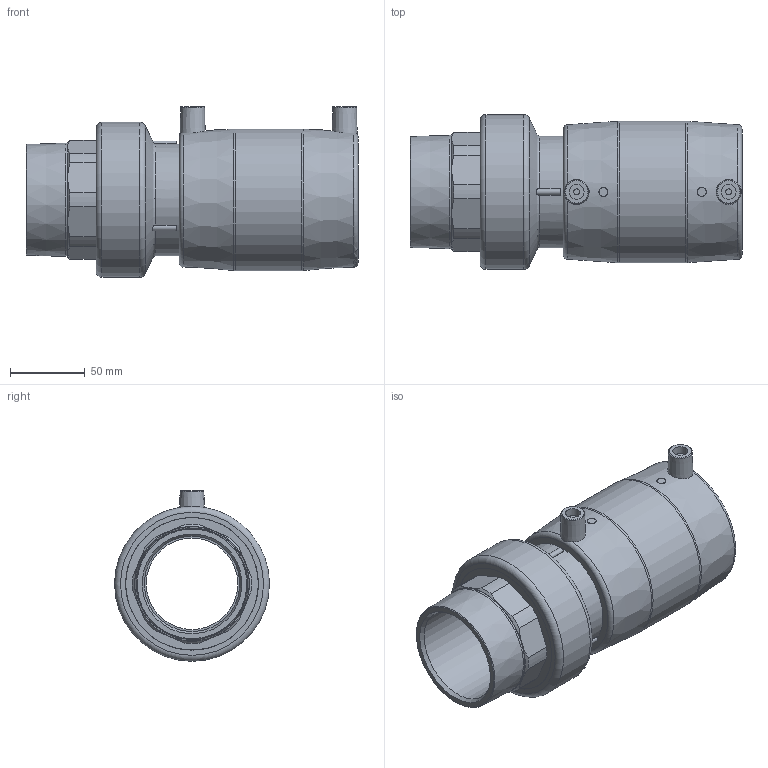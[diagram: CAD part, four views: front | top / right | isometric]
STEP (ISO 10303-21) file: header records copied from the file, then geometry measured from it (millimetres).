
FILE_DESCRIPTION(/* description */ ('Unknown'),/* implementation_level */ '2;1');
FILE_NAME(/* name */ 'MTMP075C',/* time_stamp */ '2021-03-02T10:11:53+01:00',/* author */ ('Unknown'),/* organization */ ('Unknown'),/* preprocessor_version */ 'ST-DEVELOPER v16.7',/* originating_system */ 'Solid Edge',/* authorisation */ 'Unknown');
FILE_SCHEMA (('AUTOMOTIVE_DESIGN {1 0 10303 214 3 1 1}'));
Length unit declared in the file: millimetre
Products named in the file (5): MTMP075C; MP075C; RTOMP075C; Parte PE 075; IOM075C
Assembly tree (4 placements, depth 3):
  MTMP075C
    MP075C
    RTOMP075C
      Parte PE 075
      IOM075C
Bounding box: 222.8 x 104 x 114.5 mm (x, y, z)
Volume: 669317 mm3; surface area: 187373.9 mm2
Topology: 3 solids, 3 shells, 217 faces, 523 edges, 336 vertices
Faces by surface type: plane 116, cylinder 52, cone 17, torus 17, bspline 15
Full cylindrical faces by diameter (mm): 4 x2, 6 x2, 10 x2, 61.4 x1, 64 x1, 67 x2, 72 x2, 75 x2, 76.3 x1, 83 x4, 83.4 x2, 89 x8, 95 x1, 104 x1
Entity records: 6878 total; most frequent: CARTESIAN_POINT 1426, DIRECTION 1028, ORIENTED_EDGE 906, EDGE_CURVE 453, AXIS2_PLACEMENT_3D 420, VERTEX_POINT 315, EDGE_LOOP 296, FACE_BOUND 296
